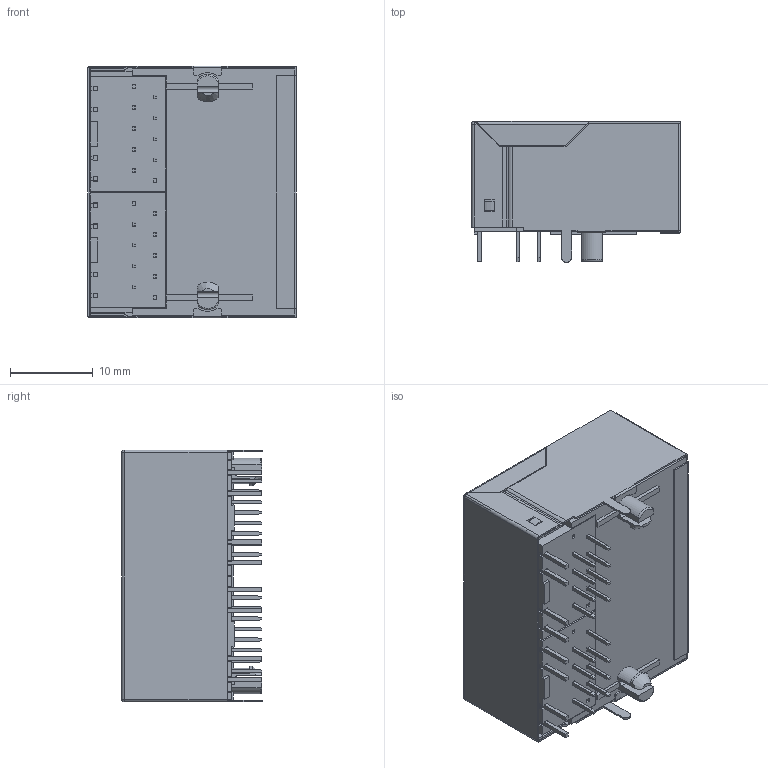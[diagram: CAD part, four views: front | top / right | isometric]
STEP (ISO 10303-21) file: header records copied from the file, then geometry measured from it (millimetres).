
FILE_DESCRIPTION((''),'2;1');
FILE_NAME('DGKYD312B002AB1A4DN','2023-05-27T09:42:44',('Administrator'),(''),'CREO PARAMETRIC BY PTC INC, 2019010','CREO PARAMETRIC BY PTC INC, 2019010','');
FILE_SCHEMA(('CONFIG_CONTROL_DESIGN'));
Products named in the file (1): DGKYD312B002AB1A4DN
Bounding box: 25.3 x 17.05 x 30.5 mm (x, y, z)
Volume: 4830.5 mm3; surface area: 13706.2 mm2
Topology: 1 solids, 1 shells, 3710 faces, 11077 edges, 7208 vertices
Faces by surface type: plane 2966, cylinder 727, extrusion 11, sphere 2, torus 2, cone 2
Entity records: 124125 total; most frequent: CARTESIAN_POINT 22837, ORIENTED_EDGE 22150, DIRECTION 19945, EDGE_CURVE 11075, VECTOR 9367, LINE 9356, VERTEX_POINT 7208, AXIS2_PLACEMENT_3D 5289
